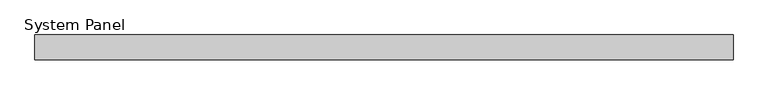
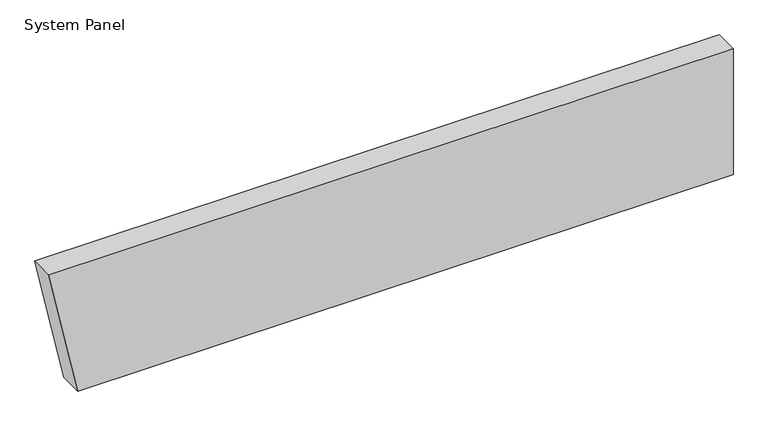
"""IFC4 building model written with IfcOpenShell, lengths in millimetres: plate geometry, System Panel : MetecnoPanel 200mm Horizontal - Plain Astro - PIR."""

from ifc_helpers import new_model, si_unit, frame, origin, place, context, project, spatial, polyline, outline, extrude, source, transform, mapped, element, save


def system_panel_51c253d5(model_context):
    return source(origin(), model_context, "Body", "SweptSolid", [
        extrude(outline(polyline([(0.0, -2590.0), (0.0, 2829.1323567), (1100.0, 2829.1323567), (1100.0, -2829.1323567), (0.0, -2590.0)])), frame((0.0, -200.0, 0.0), z_axis=(0.0, 1.0, 0.0), x_axis=(0.0, 0.0, 1.0)), (0.0, 0.0, 1.0), 200.0),
    ])


if __name__ == "__main__":
    model = new_model("IFC4")
    model_context = context("Model", 3, world=origin())
    ifc_project = project(units=[si_unit("LENGTHUNIT", "METRE", prefix="MILLI")], contexts=[model_context])
    site = spatial("IfcSite", under=ifc_project)
    building = spatial("IfcBuilding", under=site)
    placement = place(None, origin())
    system_panel_shape = system_panel_51c253d5(model_context)
    element("IfcPlate", 1, ObjectType="System Panel : MetecnoPanel 200mm Horizontal - Plain Astro - PIR", at=placement, inside=building, context=model_context, shape_type="MappedRepresentation", body=[
        mapped(system_panel_shape, transform((0.0, 0.0, 0.0), x_axis=(1.0, 0.0, 0.0), y_axis=(0.0, 1.0, 0.0), z_axis=(0.0, 0.0, 1.0))),
    ])
    save(model, "model.ifc")
